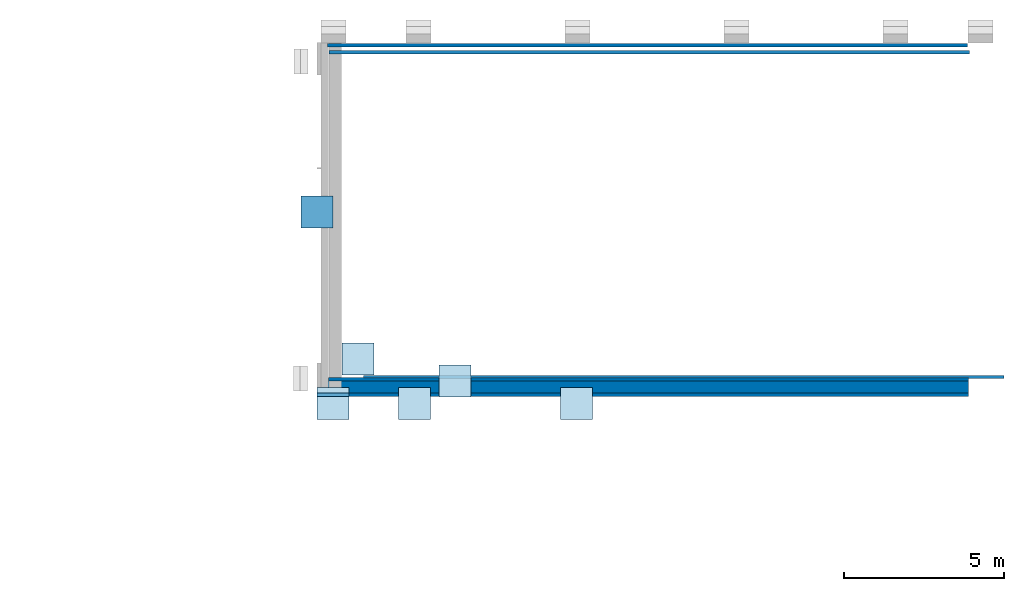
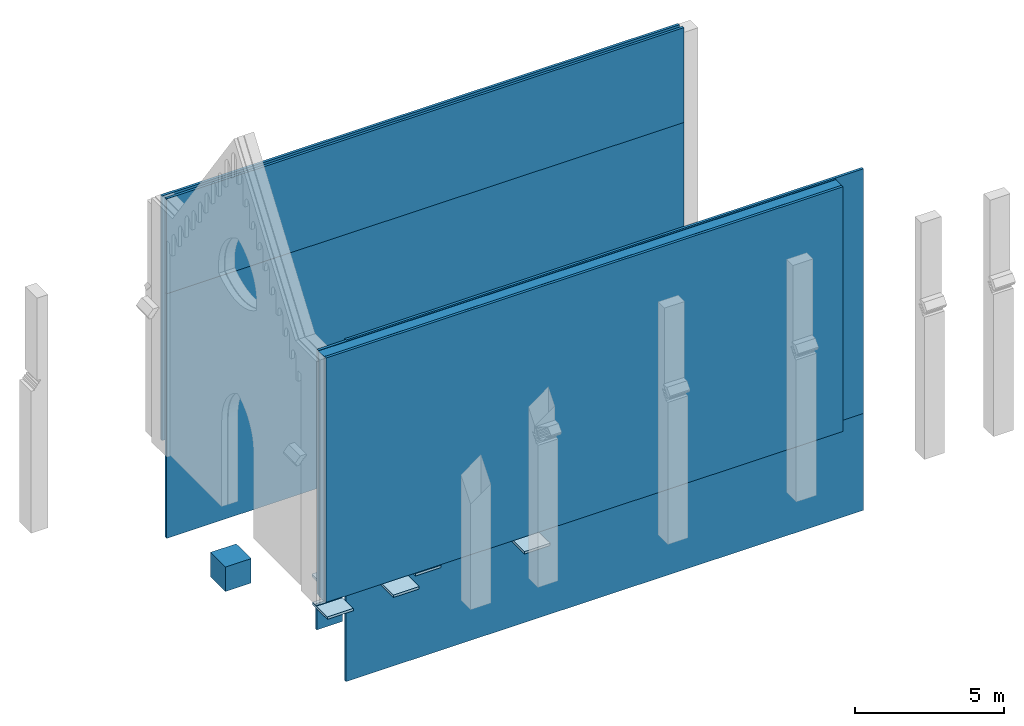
# Not in any storey, part 1 of 5: 10 walls, 5 slabs.
"""IFC4 model written with IfcOpenShell, lengths in metres."""

from ifc_helpers import new_model, entity, si_unit, converted_unit, frame, origin_with_axes, origin_2d_with_axis, place, context, subcontext, project, polyline, indexed_curve, outline, extrude, polygons, source, transform, mapped, material, layer, layer_set, layer_usage, type_object, type_shapes, element, save


model = new_model("IFC4")

# Units and contexts
model_context = context("Model", 3, precision=1e-05, world=origin_with_axes())
plan_context = context("Plan", 2, precision=1e-05, world=origin_2d_with_axis())
body_context = subcontext(model_context, "Body", "Model", "MODEL_VIEW")
ifc_project = project(units=[si_unit("LENGTHUNIT", "METRE"), converted_unit("PLANEANGLEUNIT", "degree", entity("IfcReal", 0.0174532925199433), si_unit("PLANEANGLEUNIT", "RADIAN"), dimensions=[0, 0, 0, 0, 0, 0, 0]), si_unit("AREAUNIT", "SQUARE_METRE"), si_unit("VOLUMEUNIT", "CUBIC_METRE")], contexts=[model_context, plan_context])

# Slabs
ifc_material = material(Name="render")
ifc_layer_1 = layer(ifc_material, 0.1)
ifc_layer_set_1 = layer_set([ifc_layer_1])
ifc_layer_usage_1 = layer_usage(ifc_layer_set_1, "AXIS3", "POSITIVE", 0.0)
slab_type_1 = type_object("IfcSlabType", Name="floor1", PredefinedType="FLOOR", material=ifc_layer_set_1)
slab_1_placement = place(None, frame((0.772561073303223, 0.671792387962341, -0.100000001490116), z_axis=(0.0, 0.0, 1.0), x_axis=(1.0, 0.0, 0.0)))
element("IfcSlab", 1, at=slab_1_placement, type_object=slab_type_1, material=ifc_layer_usage_1, Name="floor_finish_01", context=body_context, shape_type="SweptSolid", body=[
    extrude(outline(indexed_curve([(0.0, 0.0), (1.0, 0.0), (1.0, 1.0), (0.0, 1.0), (0.0, 0.0)])), None, (0.0, 0.0, 1.0), 0.1),
])
ifc_layer_2 = layer(ifc_material, 0.1)
ifc_layer_set_2 = layer_set([ifc_layer_2])
ifc_layer_usage_2 = layer_usage(ifc_layer_set_2, "AXIS3", "POSITIVE", 0.0)
slab_type_2 = type_object("IfcSlabType", Name="plinth profile", PredefinedType="FLOOR", material=ifc_layer_set_2)
slab_2_placement = place(None, frame((2.54118752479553, -0.727247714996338, -0.125), z_axis=(0.0, 0.0, 1.0), x_axis=(1.0, 0.0, 0.0)))
element("IfcSlab", 2, at=slab_2_placement, type_object=slab_type_2, material=ifc_layer_usage_2, Name="Slab", context=body_context, shape_type="SweptSolid", body=[
    extrude(outline(indexed_curve([(0.0, 0.0), (1.0, 0.0), (1.0, 1.0), (0.0, 1.0), (0.0, 0.0)])), None, (0.0, 0.0, 1.0), 0.1),
])
ifc_layer_usage_3 = layer_usage(ifc_layer_set_2, "AXIS3", "POSITIVE", 0.0)
slab_3_placement = place(None, frame((-0.00933483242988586, -0.727247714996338, -0.125), z_axis=(0.0, 0.0, 1.0), x_axis=(1.0, 0.0, 0.0)))
element("IfcSlab", 3, at=slab_3_placement, type_object=slab_type_2, material=ifc_layer_usage_3, Name="Slab", context=body_context, shape_type="SweptSolid", body=[
    extrude(outline(indexed_curve([(0.0, 0.0), (1.0, 0.0), (1.0, 1.0), (0.0, 1.0), (0.0, 0.0)])), None, (0.0, 0.0, 1.0), 0.1),
])
ifc_layer_usage_4 = layer_usage(ifc_layer_set_2, "AXIS3", "POSITIVE", 0.0)
slab_4_placement = place(None, frame((7.60374975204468, -0.727247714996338, -0.125), z_axis=(0.0, 0.0, 1.0), x_axis=(1.0, 0.0, 0.0)))
element("IfcSlab", 4, at=slab_4_placement, type_object=slab_type_2, material=ifc_layer_usage_4, Name="Slab", context=body_context, shape_type="SweptSolid", body=[
    extrude(outline(indexed_curve([(0.0, 0.0), (1.0, 0.0), (1.0, 1.0), (0.0, 1.0), (0.0, 0.0)])), None, (0.0, 0.0, 1.0), 0.1),
])
ifc_layer_usage_5 = layer_usage(ifc_layer_set_2, "AXIS3", "POSITIVE", 0.0)
slab_5_placement = place(None, frame((3.80080771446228, -0.0130611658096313, -0.125), z_axis=(0.0, 0.0, 1.0), x_axis=(1.0, 0.0, 0.0)))
element("IfcSlab", 5, at=slab_5_placement, type_object=slab_type_2, material=ifc_layer_usage_5, Name="Slab", context=body_context, shape_type="SweptSolid", body=[
    extrude(outline(indexed_curve([(0.0, 0.0), (1.0, 0.0), (1.0, 1.0), (0.0, 1.0), (0.0, 0.0)])), None, (0.0, 0.0, 1.0), 0.1),
])

# Walls
ifc_layer_3 = layer(ifc_material, 0.1)
ifc_layer_set_3 = layer_set([ifc_layer_3])
ifc_layer_usage_6 = layer_usage(ifc_layer_set_3, "AXIS2", "POSITIVE", 0.0)
wall_type_1 = type_object("IfcWallType", Name="bwk1", PredefinedType="SOLIDWALL", material=ifc_layer_set_3)
wall_1_placement = place(None, frame((0.348947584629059, 0.000731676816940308, -0.0111284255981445), z_axis=(0.0, 0.0, 1.0), x_axis=(1.0, 0.0, 0.0)))
element("IfcWall", 6, at=wall_1_placement, type_object=wall_type_1, material=ifc_layer_usage_6, Name="Wall_west_facing", context=body_context, shape_type="SweptSolid", body=[
    extrude(outline(indexed_curve([(0.0, 0.0), (0.0, 0.1), (20.0, 0.1), (20.0, 0.0), (0.0, 0.0)], self_intersect=False)), origin_with_axes(), (0.0, 0.0, 1.0), 10.0),
])
ifc_layer_usage_7 = layer_usage(ifc_layer_set_3, "AXIS2", "POSITIVE", 0.0)
wall_2_placement = place(None, frame((0.352338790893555, 0.488085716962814, 0.0), z_axis=(0.0, 0.0, 1.0), x_axis=(1.0, 0.0, 0.0)))
element("IfcWall", 7, at=wall_2_placement, type_object=wall_type_1, material=ifc_layer_usage_7, Name="Wall_west_finish", context=body_context, shape_type="SweptSolid", body=[
    extrude(outline(indexed_curve([(0.0, 0.0), (0.0, 0.1), (20.0, 0.1), (20.0, 0.0), (0.0, 0.0)], self_intersect=False)), origin_with_axes(), (0.0, 0.0, 1.0), 10.0),
])
ifc_layer_usage_8 = layer_usage(ifc_layer_set_3, "AXIS2", "POSITIVE", 0.0)
wall_3_placement = place(None, frame((20.3211784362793, 11.0169525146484, 0.0), z_axis=(0.0, 0.0, 1.0), x_axis=(-0.999999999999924, -3.89414367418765e-07, 0.0)))
element("IfcWall", 8, at=wall_3_placement, type_object=wall_type_1, material=ifc_layer_usage_8, Name="Wall_east_facing", context=body_context, shape_type="SweptSolid", body=[
    extrude(outline(indexed_curve([(0.0, 0.0), (0.0, 0.1), (20.0, 0.1), (20.0, 0.0), (0.0, 0.0)], self_intersect=False)), origin_with_axes(), (0.0, 0.0, 1.0), 10.0),
])
ifc_layer_usage_9 = layer_usage(ifc_layer_set_3, "AXIS2", "POSITIVE", 0.0)
wall_4_placement = place(None, frame((20.3727149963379, 10.7969532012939, 0.0), z_axis=(0.0, 0.0, 1.0), x_axis=(-0.999999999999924, -3.89414367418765e-07, 0.0)))
element("IfcWall", 9, at=wall_4_placement, type_object=wall_type_1, material=ifc_layer_usage_9, Name="Wall_east_core", context=body_context, shape_type="SweptSolid", body=[
    extrude(outline(indexed_curve([(0.0, 0.0), (0.0, 0.1), (20.0, 0.1), (20.0, 0.0), (0.0, 0.0)], self_intersect=False)), origin_with_axes(), (0.0, 0.0, 1.0), 10.0),
])
ifc_layer_usage_10 = layer_usage(ifc_layer_set_3, "AXIS2", "POSITIVE", 0.0)
wall_5_placement = place(None, frame((21.4555549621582, 0.655467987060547, 0.0), z_axis=(0.0, 0.0, 1.0), x_axis=(-0.999999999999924, -3.89414367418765e-07, 0.0)))
element("IfcWall", 10, at=wall_5_placement, type_object=wall_type_1, material=ifc_layer_usage_10, Name="Wall_west_finish.001", context=body_context, shape_type="SweptSolid", body=[
    extrude(outline(indexed_curve([(0.0, 0.0), (0.0, 0.1), (20.0, 0.1), (20.0, 0.0), (0.0, 0.0)], self_intersect=False)), origin_with_axes(), (0.0, 0.0, 1.0), 10.0),
])
ifc_layer_usage_11 = layer_usage(ifc_layer_set_3, "AXIS2", "POSITIVE", 0.0)
wall_6_placement = place(None, frame((0.0, 0.0, -1.0), z_axis=(0.0, 0.0, 1.0), x_axis=(1.0, 0.0, 0.0)))
element("IfcWall", 11, at=wall_6_placement, type_object=wall_type_1, material=ifc_layer_usage_11, Name="Wall_west_plinth_01", context=body_context, shape_type="SweptSolid", body=[
    extrude(outline(indexed_curve([(0.0, 0.0), (0.0, 0.1), (1.0, 0.1), (1.0, 0.0), (0.0, 0.0)], self_intersect=False)), origin_with_axes(), (0.0, 0.0, 1.0), 1.0),
])
ifc_layer_usage_12 = layer_usage(ifc_layer_set_3, "AXIS2", "POSITIVE", 0.0)
wall_7_placement = place(None, frame((21.4555549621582, 0.655467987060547, -3.96098709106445), z_axis=(0.0, 0.0, 1.0), x_axis=(-0.999999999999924, -3.89414367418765e-07, 0.0)))
element("IfcWall", 12, at=wall_7_placement, type_object=wall_type_1, material=ifc_layer_usage_12, Name="Wall_west_finish.001", context=body_context, shape_type="SweptSolid", body=[
    extrude(outline(indexed_curve([(0.0, 0.0), (0.0, 0.1), (20.0, 0.1), (20.0, 0.0), (0.0, 0.0)], self_intersect=False)), origin_with_axes(), (0.0, 0.0, 1.0), 10.0),
])
ifc_layer_usage_13 = layer_usage(ifc_layer_set_3, "AXIS2", "POSITIVE", 0.0)
wall_8_placement = place(None, frame((20.3727149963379, 10.7969532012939, -3.87797737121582), z_axis=(0.0, 0.0, 1.0), x_axis=(-0.999999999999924, -3.89414367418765e-07, 0.0)))
element("IfcWall", 13, at=wall_8_placement, type_object=wall_type_1, material=ifc_layer_usage_13, Name="Wall_east_core", context=body_context, shape_type="SweptSolid", body=[
    extrude(outline(indexed_curve([(0.0, 0.0), (0.0, 0.1), (20.0, 0.1), (20.0, 0.0), (0.0, 0.0)], self_intersect=False)), origin_with_axes(), (0.0, 0.0, 1.0), 10.0),
])
wall_type_2 = type_object("IfcWallType", Name="rubble", PredefinedType="SOLIDWALL")
shared_shape = source(origin_with_axes(), body_context, "Body", "Tessellation", [
    polygons([(-0.5, -0.5, -0.5), (-0.5, 0.5, -0.5), (-0.5, -0.5, 0.5), (-0.5, 0.5, 0.5), (0.5, 0.5, -0.5), (0.5, 0.5, 0.5), (0.5, -0.5, -0.5), (0.5, -0.5, 0.5)], [[[1, 3, 4]], [[1, 4, 2]], [[6, 5, 2]], [[6, 2, 4]], [[8, 7, 5]], [[8, 5, 6]], [[7, 8, 3]], [[7, 3, 1]], [[2, 5, 7]], [[2, 7, 1]], [[6, 4, 3]], [[6, 3, 8]]], closed=True),
])
type_shapes(wall_type_2, [shared_shape])
wall_9_placement = place(None, frame((0.0, 5.75798320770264, -1.94878458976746), z_axis=(0.0, 0.0, 1.0), x_axis=(1.0, 0.0, 0.0)))
element("IfcWall", 14, at=wall_9_placement, type_object=wall_type_2, Name="Wall", context=body_context, shape_type="MappedRepresentation", body=[
    mapped(shared_shape, transform((0.0, 0.0, 0.0), x_axis=(1.0, 0.0, 0.0), y_axis=(0.0, 1.0, 0.0), z_axis=(0.0, 0.0, 1.0), scale=1.0)),
])
wall_10_placement = place(None, frame((0.343226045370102, 0.102286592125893, -0.0111284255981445), z_axis=(0.0, 0.0, 1.0), x_axis=(1.0, 0.0, 0.0)))
element("IfcWall", 15, at=wall_10_placement, Name="Wall._west_core", PredefinedType="SOLIDWALL", context=body_context, shape_type="SweptSolid", body=[
    extrude(outline(polyline([(-10.0, -0.189999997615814), (10.0, -0.189999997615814), (10.0, 0.189999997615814), (-10.0, 0.189999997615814), (-10.0, -0.189999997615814)])), frame((10.0, 0.189999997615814, 0.0), z_axis=(0.0, 0.0, -1.0), x_axis=(1.0, 0.0, 0.0)), (0.0, 0.0, -1.0), 10.0),
])

save(model, "model.ifc")
